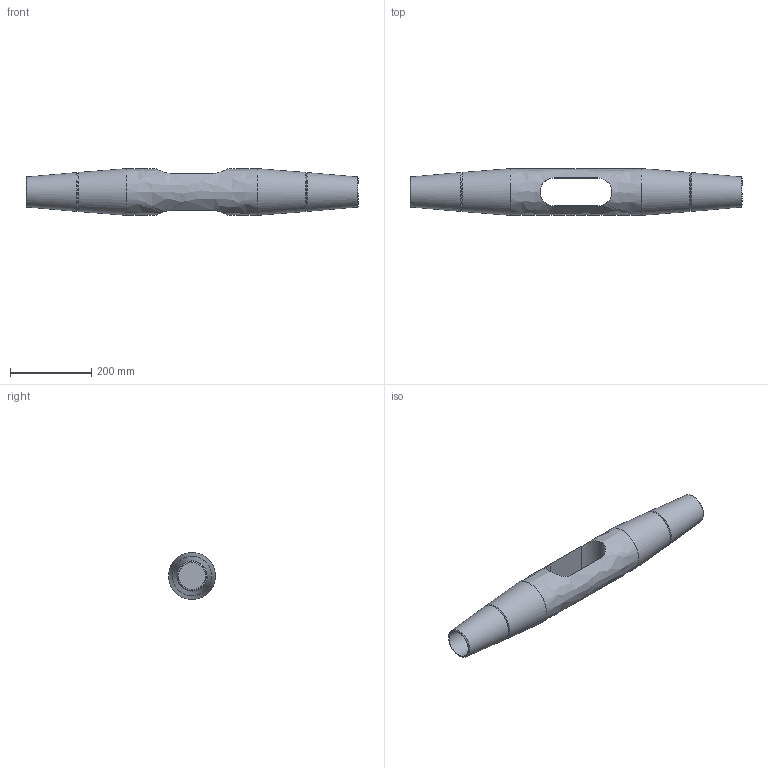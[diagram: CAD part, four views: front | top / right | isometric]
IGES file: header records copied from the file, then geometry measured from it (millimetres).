
Global section: file name: 520-064-KMF; native system: Autodesk Inventor 2016; preprocessor: unknown; author: Administrator; date: 20200702.132556; units: centimetre
Bounding box: 817 x 115 x 115 mm (x, y, z)
Volume: 5029062.3 mm3; surface area: 331741.2 mm2
Topology: 1 solids, 1 shells, 21 faces, 53 edges, 36 vertices
Faces by surface type: bspline 21
